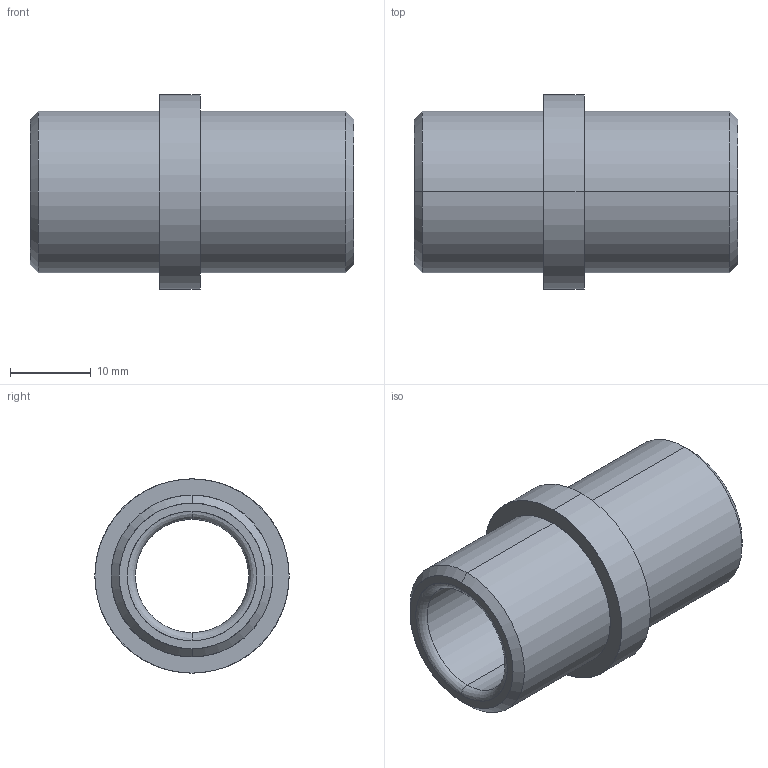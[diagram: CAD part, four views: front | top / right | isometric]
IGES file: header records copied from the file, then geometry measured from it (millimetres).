
Start section: START RECORD GO HERE.
Global section: file name: 355-14X40.igs; native system: DASSAULT SYSTEMES CATIA V5 R20 - www.3ds.com; preprocessor: CATIA Version 5 Release 20 ; author: Utente; organization: NB04-ASUS; date: 20210421.105813; units: millimetre
Bounding box: 40 x 24 x 24 mm (x, y, z)
Surface area: 4819.2 mm2 (no closed solid volume)
Topology: 0 solids, 0 shells, 20 faces, 128 edges, 128 vertices
Faces by surface type: revolution 16, plane 4
